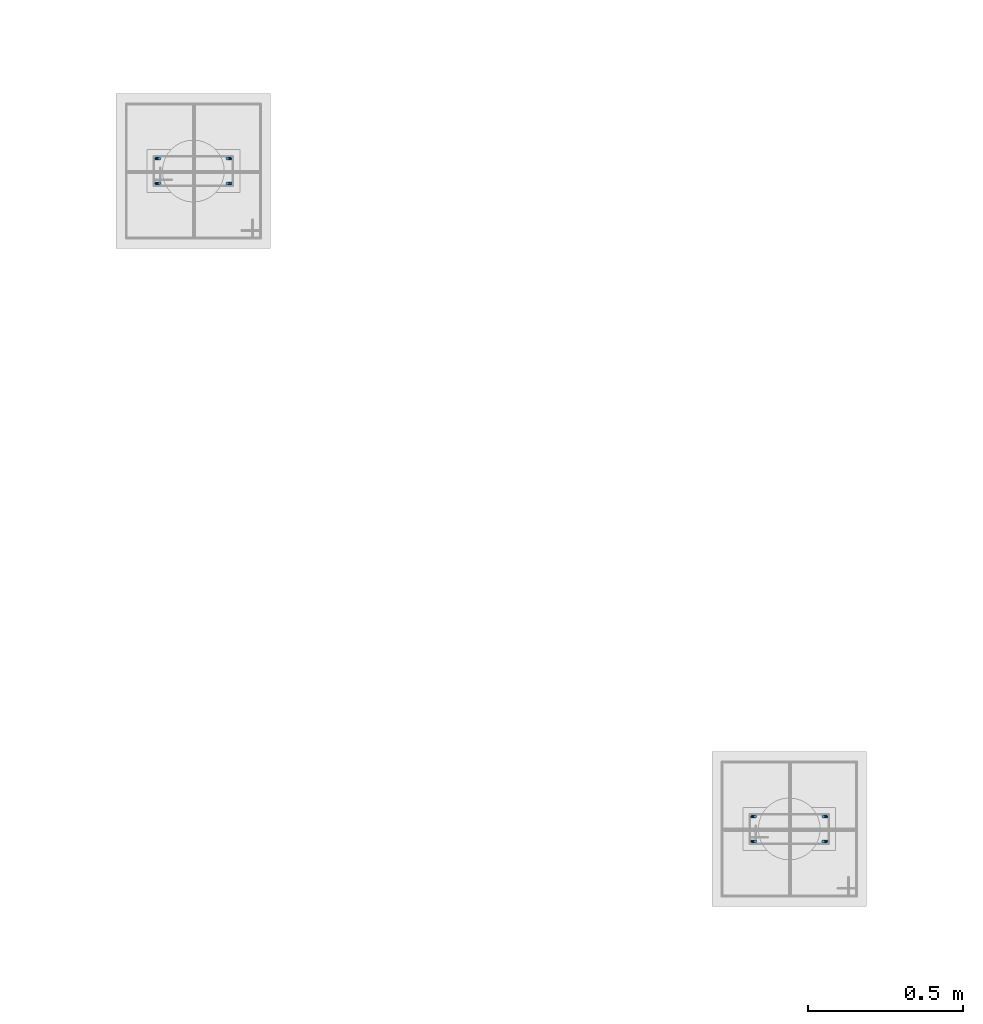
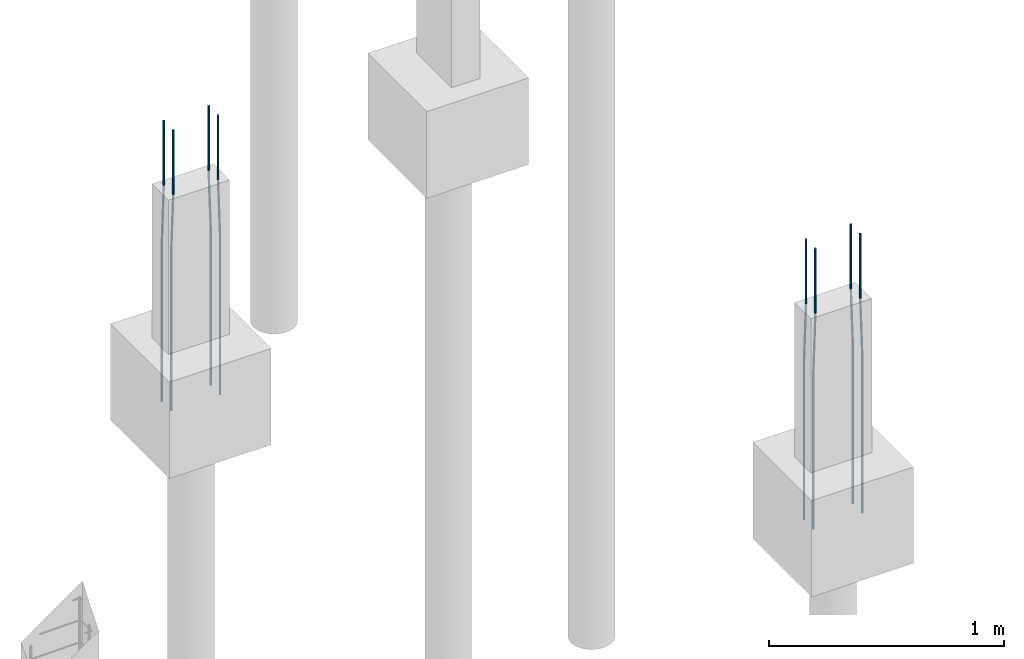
# One storey, part 18 of 119: 8 reinforcing bars.
"""IFC4 building model written with IfcOpenShell, lengths in centimetres."""

from ifc_helpers import new_model, entity, si_unit, derived_unit, frame, origin_with_axes, place, context, project, spatial, element, save


model = new_model("IFC4")

# Units and contexts
model_context = context("Model", 3, precision=1e-05, world=origin_with_axes(), identifier="Body")
ifc_project = project(units=[si_unit("LENGTHUNIT", "METRE", prefix="CENTI"), si_unit("VOLUMEUNIT", "CUBIC_METRE"), si_unit("AREAUNIT", "SQUARE_METRE"), si_unit("POWERUNIT", "WATT"), si_unit("LUMINOUSFLUXUNIT", "LUMEN"), si_unit("ELECTRICCURRENTUNIT", "AMPERE"), si_unit("PRESSUREUNIT", "PASCAL", prefix="KILO"), si_unit("MASSUNIT", "GRAM", prefix="KILO"), si_unit("PLANEANGLEUNIT", "RADIAN"), derived_unit("VOLUMETRICFLOWRATEUNIT", [(si_unit("LENGTHUNIT", "METRE"), 3), (si_unit("TIMEUNIT", "SECOND"), -1)])], contexts=[model_context])

# Site, building, storey
site_placement = place(None, frame((-4000.0, 0.0, 0.0), z_axis=(0.0, 0.0, 1.0), x_axis=(1.0, 0.0, 0.0)))
site = spatial("IfcSite", under=ifc_project, at=site_placement, Name="PADRÃO")
building_placement = place(site_placement, frame((0.0, 0.0, -14.0)))
building = spatial("IfcBuilding", under=site, at=building_placement, Name="CRECHE PRÉ-ESCOLA TIPO 2")
storey_placement = place(building_placement, origin_with_axes())
storey = spatial("IfcBuildingStorey", under=building, at=storey_placement, Name="FUNDAÇÃO", CompositionType="ELEMENT", Elevation=-14.0)

# Reinforcing bars
for number, where, z_axis, x_axis, name in (
    (1, (2931.95, 623.58, 33.3573001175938), (0.0, 0.0, 1.0), (1.0, 0.0, 0.0), "P134 - Longitudinal"),
    (2, (2931.95, 631.58, 33.3573001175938), (0.0, 0.0, 1.0), (1.0, 0.0, 0.0), "P134 - Longitudinal"),
):
    element("IfcReinforcingBar", number, at=place(storey_placement, frame(where, z_axis=z_axis, x_axis=x_axis)), inside=storey, Name=name, BarLength=0.0, CrossSectionArea=7.853981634e-05, NominalDiameter=1.0, PredefinedType="MAIN", context=model_context, shape_type="AdvancedSweptSolid", body=[
        entity("IfcSweptDiskSolid", entity("IfcCompositeCurve", [entity("IfcCompositeCurveSegment", "CONTINUOUS", True, entity("IfcPolyline", [entity("IfcCartesianPoint", [-0.5, 0.0, -145.357300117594]), entity("IfcCartesianPoint", [-0.5, 0.0, -63.3573001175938])])), entity("IfcCompositeCurveSegment", "CONTINUOUS", True, entity("IfcPolyline", [entity("IfcCartesianPoint", [-0.5, 0.0, -63.3573001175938]), entity("IfcCartesianPoint", [0.5, 0.0, -33.3573001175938])])), entity("IfcCompositeCurveSegment", "CONTINUOUS", True, entity("IfcPolyline", [entity("IfcCartesianPoint", [0.5, 0.0, -33.3573001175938]), entity("IfcCartesianPoint", [0.5, 0.0, 0.0])]))], False), 0.5),
    ])
for number, where, z_axis, x_axis, name in (
    (3, (2954.95, 623.58, 33.3573001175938), (0.0, 0.0, 1.0), (1.0, 0.0, 0.0), "P134 - Longitudinal"),
    (4, (2954.95, 631.58, 33.3573001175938), (0.0, 0.0, 1.0), (1.0, 0.0, 0.0), "P134 - Longitudinal"),
):
    element("IfcReinforcingBar", number, at=place(storey_placement, frame(where, z_axis=z_axis, x_axis=x_axis)), inside=storey, Name=name, BarLength=0.0, CrossSectionArea=7.853981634e-05, NominalDiameter=1.0, PredefinedType="MAIN", context=model_context, shape_type="AdvancedSweptSolid", body=[
        entity("IfcSweptDiskSolid", entity("IfcCompositeCurve", [entity("IfcCompositeCurveSegment", "CONTINUOUS", True, entity("IfcPolyline", [entity("IfcCartesianPoint", [0.5, 0.0, -145.357300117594]), entity("IfcCartesianPoint", [0.5, 0.0, -63.3573001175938])])), entity("IfcCompositeCurveSegment", "CONTINUOUS", True, entity("IfcPolyline", [entity("IfcCartesianPoint", [0.5, 0.0, -63.3573001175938]), entity("IfcCartesianPoint", [-0.5, 0.0, -33.3573001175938])])), entity("IfcCompositeCurveSegment", "CONTINUOUS", True, entity("IfcPolyline", [entity("IfcCartesianPoint", [-0.5, 0.0, -33.3573001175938]), entity("IfcCartesianPoint", [-0.5, 0.0, 0.0])]))], False), 0.5),
    ])
reinforcing_bar_1_placement = place(storey_placement, frame((3124.5, 411.01, 33.3573001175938), z_axis=(0.0, 0.0, 1.0), x_axis=(1.0, 0.0, 0.0)))
element("IfcReinforcingBar", 5, at=reinforcing_bar_1_placement, inside=storey, Name="P148 - Longitudinal", BarLength=0.0, CrossSectionArea=7.853981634e-05, NominalDiameter=1.0, PredefinedType="MAIN", context=model_context, shape_type="AdvancedSweptSolid", body=[
    entity("IfcSweptDiskSolid", entity("IfcCompositeCurve", [entity("IfcCompositeCurveSegment", "CONTINUOUS", True, entity("IfcPolyline", [entity("IfcCartesianPoint", [-0.5, 0.0, -145.357300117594]), entity("IfcCartesianPoint", [-0.5, 0.0, -63.3573001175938])])), entity("IfcCompositeCurveSegment", "CONTINUOUS", True, entity("IfcPolyline", [entity("IfcCartesianPoint", [-0.5, 0.0, -63.3573001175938]), entity("IfcCartesianPoint", [0.5, 0.0, -33.3573001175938])])), entity("IfcCompositeCurveSegment", "CONTINUOUS", True, entity("IfcPolyline", [entity("IfcCartesianPoint", [0.5, 0.0, -33.3573001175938]), entity("IfcCartesianPoint", [0.5, 0.0, 0.0])]))], False), 0.5),
])
reinforcing_bar_2_placement = place(storey_placement, frame((3147.5, 411.01, 33.3573001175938), z_axis=(0.0, 0.0, 1.0), x_axis=(1.0, 0.0, 0.0)))
element("IfcReinforcingBar", 6, at=reinforcing_bar_2_placement, inside=storey, Name="P148 - Longitudinal", BarLength=0.0, CrossSectionArea=7.853981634e-05, NominalDiameter=1.0, PredefinedType="MAIN", context=model_context, shape_type="AdvancedSweptSolid", body=[
    entity("IfcSweptDiskSolid", entity("IfcCompositeCurve", [entity("IfcCompositeCurveSegment", "CONTINUOUS", True, entity("IfcPolyline", [entity("IfcCartesianPoint", [0.5, 0.0, -145.357300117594]), entity("IfcCartesianPoint", [0.5, 0.0, -63.3573001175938])])), entity("IfcCompositeCurveSegment", "CONTINUOUS", True, entity("IfcPolyline", [entity("IfcCartesianPoint", [0.5, 0.0, -63.3573001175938]), entity("IfcCartesianPoint", [-0.5, 0.0, -33.3573001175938])])), entity("IfcCompositeCurveSegment", "CONTINUOUS", True, entity("IfcPolyline", [entity("IfcCartesianPoint", [-0.5, 0.0, -33.3573001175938]), entity("IfcCartesianPoint", [-0.5, 0.0, 0.0])]))], False), 0.5),
])
reinforcing_bar_3_placement = place(storey_placement, frame((3124.5, 419.01, 33.3573001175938), z_axis=(0.0, 0.0, 1.0), x_axis=(1.0, 0.0, 0.0)))
element("IfcReinforcingBar", 7, at=reinforcing_bar_3_placement, inside=storey, Name="P148 - Longitudinal", BarLength=0.0, CrossSectionArea=7.853981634e-05, NominalDiameter=1.0, PredefinedType="MAIN", context=model_context, shape_type="AdvancedSweptSolid", body=[
    entity("IfcSweptDiskSolid", entity("IfcCompositeCurve", [entity("IfcCompositeCurveSegment", "CONTINUOUS", True, entity("IfcPolyline", [entity("IfcCartesianPoint", [-0.5, 0.0, -145.357300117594]), entity("IfcCartesianPoint", [-0.5, 0.0, -63.3573001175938])])), entity("IfcCompositeCurveSegment", "CONTINUOUS", True, entity("IfcPolyline", [entity("IfcCartesianPoint", [-0.5, 0.0, -63.3573001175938]), entity("IfcCartesianPoint", [0.5, 0.0, -33.3573001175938])])), entity("IfcCompositeCurveSegment", "CONTINUOUS", True, entity("IfcPolyline", [entity("IfcCartesianPoint", [0.5, 0.0, -33.3573001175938]), entity("IfcCartesianPoint", [0.5, 0.0, 0.0])]))], False), 0.5),
])
reinforcing_bar_4_placement = place(storey_placement, frame((3147.5, 419.01, 33.3573001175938), z_axis=(0.0, 0.0, 1.0), x_axis=(1.0, 0.0, 0.0)))
element("IfcReinforcingBar", 8, at=reinforcing_bar_4_placement, inside=storey, Name="P148 - Longitudinal", BarLength=0.0, CrossSectionArea=7.853981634e-05, NominalDiameter=1.0, PredefinedType="MAIN", context=model_context, shape_type="AdvancedSweptSolid", body=[
    entity("IfcSweptDiskSolid", entity("IfcCompositeCurve", [entity("IfcCompositeCurveSegment", "CONTINUOUS", True, entity("IfcPolyline", [entity("IfcCartesianPoint", [0.5, 0.0, -145.357300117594]), entity("IfcCartesianPoint", [0.5, 0.0, -63.3573001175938])])), entity("IfcCompositeCurveSegment", "CONTINUOUS", True, entity("IfcPolyline", [entity("IfcCartesianPoint", [0.5, 0.0, -63.3573001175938]), entity("IfcCartesianPoint", [-0.5, 0.0, -33.3573001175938])])), entity("IfcCompositeCurveSegment", "CONTINUOUS", True, entity("IfcPolyline", [entity("IfcCartesianPoint", [-0.5, 0.0, -33.3573001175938]), entity("IfcCartesianPoint", [-0.5, 0.0, 0.0])]))], False), 0.5),
])

save(model, "model.ifc")
